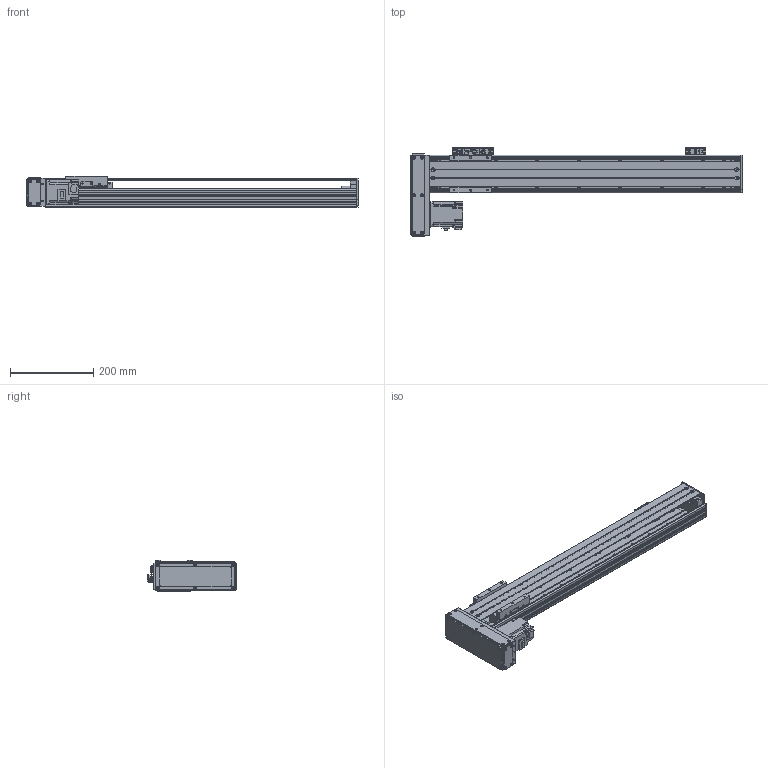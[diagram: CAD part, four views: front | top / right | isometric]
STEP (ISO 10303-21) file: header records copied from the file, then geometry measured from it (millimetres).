
FILE_DESCRIPTION(/* description */ (''),/* implementation_level */ '2;1');
FILE_NAME(/* name */ '\\192.168.0.160\disk1\HAN SHIN Master\B-설계부문\C-표준\B-2024년\BC02-표준도면\+로봇 개선표준도면\표준 승인도 작업 폴더\3D\HG90\HG90병렬\우병렬\HG90-R20-N1B-0550-L10.stp',/* time_stamp */ '2024-02-19T14:21:02+09:00',/* author */ ('User'),/* organization */ (''),/* preprocessor_version */ 'ST-DEVELOPER v18.1',/* originating_system */ 'Autodesk Inventor 2022',/* authorisation */ '');
FILE_SCHEMA (('AUTOMOTIVE_DESIGN { 1 0 10303 214 3 1 1 }'));
Length unit declared in the file: millimetre
Products named in the file (24): HG90-L20-N1B-0500-R10; HR90 BASE 100W 1BLOCK; HR90 FRONT BLOCK; HR90 REAR BLOCK TENSION; HR90 REAR COVER-TENSION; HG4UPCOV002; HG90STOPPER - 27L; HG90STOPPER - 20L; MOTOR PLATE-200W(MITSUBISHI); hg-kr23_; 화살표; HR65-LR-BELT COVER; HC90-BELT COVER-COVER3; M-5HL-4; HR90 TABLE; LMKE1520 NUT; HR75-D-BELT COVER-COVER; HC90-BELT COVER-COVER2; HC90-LR-MOTOR PLATE(200W)-사출_MIR; HR120 SENSOR DOG; SENSOR BRK(EE-SX674A); EE_SX674A; hsr_ftht_A-M6F_grease_nipple_joint; NIPPLE CAP(신규)
Assembly tree (31 placements, depth 2):
  HG90-L20-N1B-0500-R10
    HR90 BASE 100W 1BLOCK
    HR90 FRONT BLOCK
    HR90 REAR BLOCK TENSION
    HR90 REAR COVER-TENSION
    HG4UPCOV002
    HG90STOPPER - 27L
    HG90STOPPER - 20L
    MOTOR PLATE-200W(MITSUBISHI)
    hg-kr23_
    화살표  x2
    HC90-BELT COVER-COVER3  x2
    HR65-LR-BELT COVER
    M-5HL-4
    HR90 TABLE
    LMKE1520 NUT
    HR75-D-BELT COVER-COVER
    HC90-BELT COVER-COVER2
    HC90-LR-MOTOR PLATE(200W)-사출_MIR
    EE_SX674A  x3
    SENSOR BRK(EE-SX674A)  x3
    HR120 SENSOR DOG
    hsr_ftht_A-M6F_grease_nipple_joint  x2
    NIPPLE CAP(신규)  x2
Bounding box: 799 x 215 x 75 mm (x, y, z)
Volume: 1769944.7 mm3; surface area: 730614.8 mm2
Topology: 31 solids, 31 shells, 1592 faces, 4213 edges, 2759 vertices
Faces by surface type: plane 761, cylinder 649, cone 138, sphere 24, torus 12, bspline 8
Full cylindrical faces by diameter (mm): 1.8 x1, 2 x4, 2.459 x38, 2.5 x2, 3 x8, 3.242 x25, 3.4 x20, 3.5 x6, 4 x4, 4.134 x58, 4.5 x16, 4.917 x5, 5 x29, 5.5 x34, 5.6 x10, 5.8 x4, 5.9 x8, 6 x6, 6.5 x5, 7 x1, 8 x1, 9.5 x30, 14 x1, 15 x3, 17 x1, 20 x1, 22 x1, 25 x1, 28 x1, 32 x2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
Entity records: 43340 total; most frequent: CARTESIAN_POINT 8210, DIRECTION 7303, ORIENTED_EDGE 6802, EDGE_CURVE 3401, AXIS2_PLACEMENT_3D 2669, VERTEX_POINT 2260, LINE 1965, VECTOR 1965
